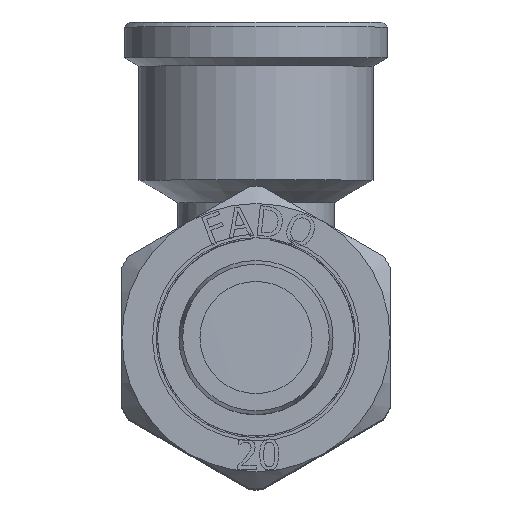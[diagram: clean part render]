
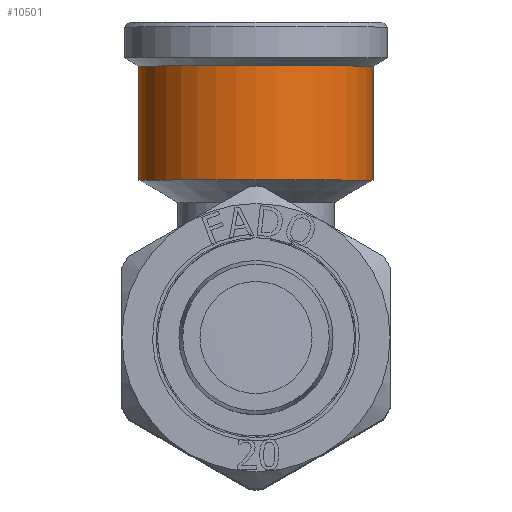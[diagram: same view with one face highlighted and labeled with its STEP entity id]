
A CAD part, top view. The second image highlights one B-rep face of the part: STEP entity #10501.
In plain terms, the highlighted cylindrical face has radius 12 mm (diameter 24 mm), a full revolution.
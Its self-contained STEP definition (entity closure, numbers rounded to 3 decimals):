
#1306=CYLINDRICAL_SURFACE('',#11229,12.);
#1483=FACE_OUTER_BOUND('',#2097,.T.);
#2097=EDGE_LOOP('',(#7438,#7439,#7440,#7441,#7442,#7443));
#2839=LINE('',#14313,#3509);
#3509=VECTOR('',#12128,12.);
#4061=CIRCLE('',#11227,12.);
#4062=CIRCLE('',#11228,12.);
#4063=CIRCLE('',#11230,12.);
#4064=CIRCLE('',#11231,12.);
#4446=VERTEX_POINT('',#14303);
#4447=VERTEX_POINT('',#14304);
#4448=VERTEX_POINT('',#14309);
#4449=VERTEX_POINT('',#14310);
#5616=EDGE_CURVE('',#4446,#4447,#4061,.T.);
#5617=EDGE_CURVE('',#4447,#4446,#4062,.T.);
#5619=EDGE_CURVE('',#4448,#4449,#4063,.T.);
#5620=EDGE_CURVE('',#4449,#4448,#4064,.T.);
#5621=EDGE_CURVE('',#4449,#4447,#2839,.T.);
#7438=ORIENTED_EDGE('',*,*,#5619,.F.);
#7439=ORIENTED_EDGE('',*,*,#5620,.F.);
#7440=ORIENTED_EDGE('',*,*,#5621,.T.);
#7441=ORIENTED_EDGE('',*,*,#5617,.T.);
#7442=ORIENTED_EDGE('',*,*,#5616,.T.);
#7443=ORIENTED_EDGE('',*,*,#5621,.F.);
#10501=ADVANCED_FACE('',(#1483),#1306,.T.);
#11227=AXIS2_PLACEMENT_3D('',#14305,#12117,#12118);
#11228=AXIS2_PLACEMENT_3D('',#14306,#12119,#12120);
#11229=AXIS2_PLACEMENT_3D('',#14308,#12122,#12123);
#11230=AXIS2_PLACEMENT_3D('',#14311,#12124,#12125);
#11231=AXIS2_PLACEMENT_3D('',#14312,#12126,#12127);
#12117=DIRECTION('center_axis',(0.,-1.,0.));
#12118=DIRECTION('ref_axis',(1.,0.,0.));
#12119=DIRECTION('center_axis',(0.,-1.,0.));
#12120=DIRECTION('ref_axis',(1.,0.,0.));
#12122=DIRECTION('center_axis',(0.,-1.,0.));
#12123=DIRECTION('ref_axis',(0.,0.,1.));
#12124=DIRECTION('center_axis',(0.,-1.,0.));
#12125=DIRECTION('ref_axis',(1.,0.,0.));
#12126=DIRECTION('center_axis',(0.,-1.,0.));
#12127=DIRECTION('ref_axis',(1.,0.,0.));
#12128=DIRECTION('',(0.,1.,0.));
#14303=CARTESIAN_POINT('',(0.,27.9,12.));
#14304=CARTESIAN_POINT('',(0.,27.9,-12.));
#14305=CARTESIAN_POINT('Origin',(0.,27.9,0.));
#14306=CARTESIAN_POINT('Origin',(0.,27.9,0.));
#14308=CARTESIAN_POINT('Origin',(0.,22.055,0.));
#14309=CARTESIAN_POINT('',(0.,16.209,12.));
#14310=CARTESIAN_POINT('',(0.,16.209,-12.));
#14311=CARTESIAN_POINT('Origin',(0.,16.209,0.));
#14312=CARTESIAN_POINT('Origin',(0.,16.209,0.));
#14313=CARTESIAN_POINT('',(0.,22.055,-12.));
